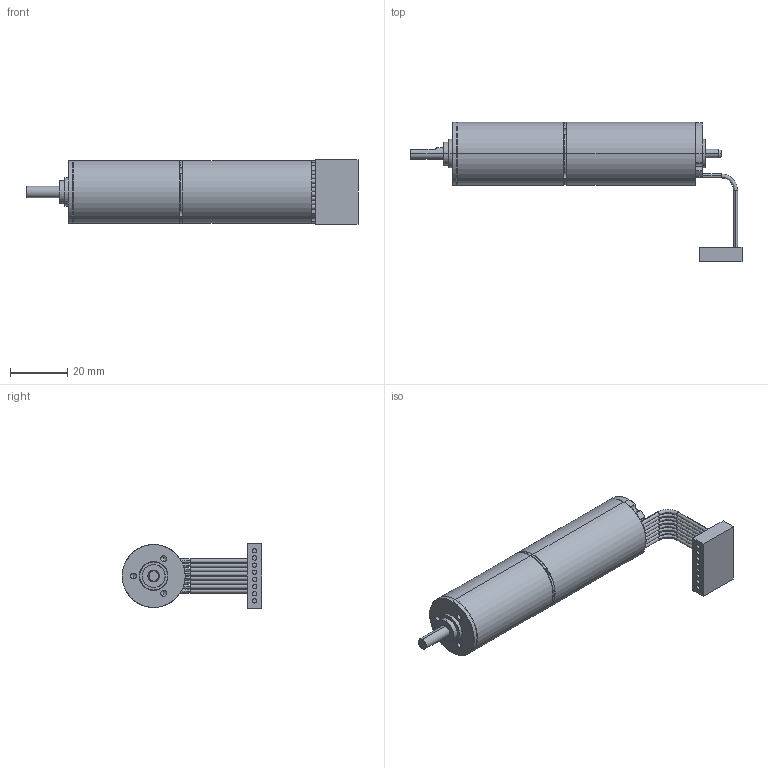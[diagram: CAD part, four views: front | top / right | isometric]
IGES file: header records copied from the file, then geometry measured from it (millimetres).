
Start section: SolidWorks IGES file using analytic representation for surfaces
Global section: file name: \\Uranus\R&D\plans\CATALOGUES\Topstock_Piece_IGES\ECMax22L_+_GP022C 3etages.IGS; native system: SolidWorks 2008; preprocessor: SolidWorks 2008; author: JUL; date: 090326.102637; units: millimetre
Bounding box: 116.1 x 48.8 x 22.4 mm (x, y, z)
Surface area: 11207.2 mm2 (no closed solid volume)
Topology: 0 solids, 0 shells, 206 faces, 2527 edges, 2507 vertices
Faces by surface type: revolution 157, bspline 49
